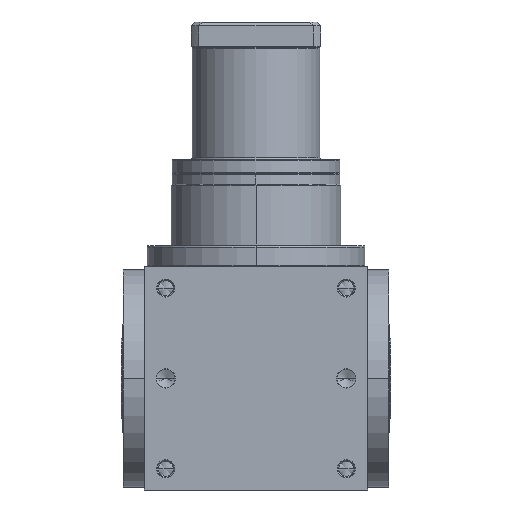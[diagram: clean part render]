
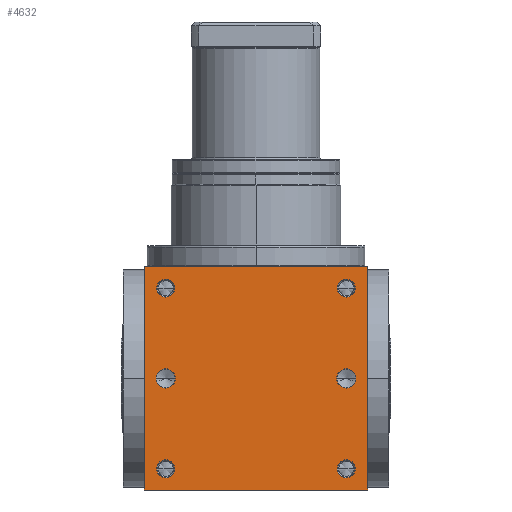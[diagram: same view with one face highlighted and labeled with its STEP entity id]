
A CAD part, front view. The second image highlights one B-rep face of the part: STEP entity #4632.
In plain terms, the highlighted planar face has unit normal (0, -1, 0).
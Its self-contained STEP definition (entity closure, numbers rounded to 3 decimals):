
#5=DIRECTION('',(1.,0.,0.));
#6=VECTOR('',#5,210.);
#7=CARTESIAN_POINT('',(-105.,-105.,-105.));
#8=LINE('',#7,#6);
#155=DIRECTION('',(0.,0.,1.));
#156=VECTOR('',#155,210.);
#157=CARTESIAN_POINT('',(105.,-105.,-105.));
#158=LINE('',#157,#156);
#209=DIRECTION('',(0.,0.,1.));
#210=VECTOR('',#209,210.);
#211=CARTESIAN_POINT('',(-105.,-105.,-105.));
#212=LINE('',#211,#210);
#213=CARTESIAN_POINT('',(85.,-105.,85.));
#214=DIRECTION('',(0.,1.,0.));
#215=DIRECTION('',(-1.,0.,0.));
#216=AXIS2_PLACEMENT_3D('',#213,#214,#215);
#218=CARTESIAN_POINT('',(85.,-105.,85.));
#219=DIRECTION('',(0.,1.,0.));
#220=DIRECTION('',(1.,0.,0.));
#221=AXIS2_PLACEMENT_3D('',#218,#219,#220);
#223=CARTESIAN_POINT('',(-85.,-105.,85.));
#224=DIRECTION('',(0.,1.,0.));
#225=DIRECTION('',(-1.,0.,0.));
#226=AXIS2_PLACEMENT_3D('',#223,#224,#225);
#228=CARTESIAN_POINT('',(-85.,-105.,85.));
#229=DIRECTION('',(0.,1.,0.));
#230=DIRECTION('',(1.,0.,0.));
#231=AXIS2_PLACEMENT_3D('',#228,#229,#230);
#233=CARTESIAN_POINT('',(85.,-105.,-85.));
#234=DIRECTION('',(0.,1.,0.));
#235=DIRECTION('',(-1.,0.,0.));
#236=AXIS2_PLACEMENT_3D('',#233,#234,#235);
#238=CARTESIAN_POINT('',(85.,-105.,-85.));
#239=DIRECTION('',(0.,1.,0.));
#240=DIRECTION('',(1.,0.,0.));
#241=AXIS2_PLACEMENT_3D('',#238,#239,#240);
#243=CARTESIAN_POINT('',(-85.,-105.,-85.));
#244=DIRECTION('',(0.,1.,0.));
#245=DIRECTION('',(-1.,0.,0.));
#246=AXIS2_PLACEMENT_3D('',#243,#244,#245);
#248=CARTESIAN_POINT('',(-85.,-105.,-85.));
#249=DIRECTION('',(0.,1.,0.));
#250=DIRECTION('',(1.,0.,0.));
#251=AXIS2_PLACEMENT_3D('',#248,#249,#250);
#253=CARTESIAN_POINT('',(-85.,-105.,0.));
#254=DIRECTION('',(0.,1.,0.));
#255=DIRECTION('',(1.,0.,0.));
#256=AXIS2_PLACEMENT_3D('',#253,#254,#255);
#258=CARTESIAN_POINT('',(-85.,-105.,0.));
#259=DIRECTION('',(0.,1.,0.));
#260=DIRECTION('',(-1.,0.,0.));
#261=AXIS2_PLACEMENT_3D('',#258,#259,#260);
#263=CARTESIAN_POINT('',(85.,-105.,0.));
#264=DIRECTION('',(0.,1.,0.));
#265=DIRECTION('',(1.,0.,0.));
#266=AXIS2_PLACEMENT_3D('',#263,#264,#265);
#268=CARTESIAN_POINT('',(85.,-105.,0.));
#269=DIRECTION('',(0.,1.,0.));
#270=DIRECTION('',(-1.,0.,0.));
#271=AXIS2_PLACEMENT_3D('',#268,#269,#270);
#285=DIRECTION('',(1.,0.,0.));
#286=VECTOR('',#285,210.);
#287=CARTESIAN_POINT('',(-105.,-105.,105.));
#288=LINE('',#287,#286);
#3730=CARTESIAN_POINT('',(-105.,-105.,-105.));
#3732=VERTEX_POINT('',#3730);
#3733=CARTESIAN_POINT('',(105.,-105.,-105.));
#3734=VERTEX_POINT('',#3733);
#3738=CARTESIAN_POINT('',(-105.,-105.,105.));
#3740=VERTEX_POINT('',#3738);
#3741=CARTESIAN_POINT('',(105.,-105.,105.));
#3742=VERTEX_POINT('',#3741);
#3897=CARTESIAN_POINT('',(76.6,-105.,85.));
#3898=CARTESIAN_POINT('',(93.4,-105.,85.));
#3899=VERTEX_POINT('',#3897);
#3900=VERTEX_POINT('',#3898);
#3905=CARTESIAN_POINT('',(-93.4,-105.,85.));
#3906=CARTESIAN_POINT('',(-76.6,-105.,85.));
#3907=VERTEX_POINT('',#3905);
#3908=VERTEX_POINT('',#3906);
#3913=CARTESIAN_POINT('',(76.6,-105.,-85.));
#3914=CARTESIAN_POINT('',(93.4,-105.,-85.));
#3915=VERTEX_POINT('',#3913);
#3916=VERTEX_POINT('',#3914);
#3921=CARTESIAN_POINT('',(-93.4,-105.,-85.));
#3922=CARTESIAN_POINT('',(-76.6,-105.,-85.));
#3923=VERTEX_POINT('',#3921);
#3924=VERTEX_POINT('',#3922);
#4245=CARTESIAN_POINT('',(-75.95,-105.,0.));
#4246=CARTESIAN_POINT('',(-94.05,-105.,
0.));
#4247=VERTEX_POINT('',#4245);
#4248=VERTEX_POINT('',#4246);
#4253=CARTESIAN_POINT('',(94.05,-105.,0.));
#4254=CARTESIAN_POINT('',(75.95,-105.,0.));
#4255=VERTEX_POINT('',#4253);
#4256=VERTEX_POINT('',#4254);
#4584=CARTESIAN_POINT('',(-105.,-105.,-105.));
#4585=DIRECTION('',(0.,-1.,0.));
#4586=DIRECTION('',(1.,0.,0.));
#4587=AXIS2_PLACEMENT_3D('',#4584,#4585,#4586);
#4588=PLANE('',#4587);
#4589=ORIENTED_EDGE('',*,*,#4424,.F.);
#4590=ORIENTED_EDGE('',*,*,#4467,.T.);
#4592=ORIENTED_EDGE('',*,*,#4591,.T.);
#4593=ORIENTED_EDGE('',*,*,#4546,.F.);
#4594=EDGE_LOOP('',(#4589,#4590,#4592,#4593));
#4595=FACE_OUTER_BOUND('',#4594,.F.);
#4597=ORIENTED_EDGE('',*,*,#4596,.F.);
#4599=ORIENTED_EDGE('',*,*,#4598,.F.);
#4600=EDGE_LOOP('',(#4597,#4599));
#4601=FACE_BOUND('',#4600,.F.);
#4603=ORIENTED_EDGE('',*,*,#4602,.F.);
#4605=ORIENTED_EDGE('',*,*,#4604,.F.);
#4606=EDGE_LOOP('',(#4603,#4605));
#4607=FACE_BOUND('',#4606,.F.);
#4609=ORIENTED_EDGE('',*,*,#4608,.F.);
#4611=ORIENTED_EDGE('',*,*,#4610,.F.);
#4612=EDGE_LOOP('',(#4609,#4611));
#4613=FACE_BOUND('',#4612,.F.);
#4615=ORIENTED_EDGE('',*,*,#4614,.F.);
#4617=ORIENTED_EDGE('',*,*,#4616,.F.);
#4618=EDGE_LOOP('',(#4615,#4617));
#4619=FACE_BOUND('',#4618,.F.);
#4621=ORIENTED_EDGE('',*,*,#4620,.F.);
#4623=ORIENTED_EDGE('',*,*,#4622,.F.);
#4624=EDGE_LOOP('',(#4621,#4623));
#4625=FACE_BOUND('',#4624,.F.);
#4627=ORIENTED_EDGE('',*,*,#4626,.F.);
#4629=ORIENTED_EDGE('',*,*,#4628,.F.);
#4630=EDGE_LOOP('',(#4627,#4629));
#4631=FACE_BOUND('',#4630,.F.);
#4632=ADVANCED_FACE('',(#4595,#4601,#4607,#4613,#4619,#4625,#4631),#4588,.T.);
#217=CIRCLE('',#216,8.4);
#222=CIRCLE('',#221,8.4);
#227=CIRCLE('',#226,8.4);
#232=CIRCLE('',#231,8.4);
#237=CIRCLE('',#236,8.4);
#242=CIRCLE('',#241,8.4);
#247=CIRCLE('',#246,8.4);
#252=CIRCLE('',#251,8.4);
#257=CIRCLE('',#256,9.05);
#262=CIRCLE('',#261,9.05);
#267=CIRCLE('',#266,9.05);
#272=CIRCLE('',#271,9.05);
#4424=EDGE_CURVE('',#3732,#3734,#8,.T.);
#4467=EDGE_CURVE('',#3732,#3740,#212,.T.);
#4546=EDGE_CURVE('',#3734,#3742,#158,.T.);
#4591=EDGE_CURVE('',#3740,#3742,#288,.T.);
#4596=EDGE_CURVE('',#3899,#3900,#217,.T.);
#4598=EDGE_CURVE('',#3900,#3899,#222,.T.);
#4602=EDGE_CURVE('',#3907,#3908,#227,.T.);
#4604=EDGE_CURVE('',#3908,#3907,#232,.T.);
#4608=EDGE_CURVE('',#3915,#3916,#237,.T.);
#4610=EDGE_CURVE('',#3916,#3915,#242,.T.);
#4614=EDGE_CURVE('',#3923,#3924,#247,.T.);
#4616=EDGE_CURVE('',#3924,#3923,#252,.T.);
#4620=EDGE_CURVE('',#4247,#4248,#257,.T.);
#4622=EDGE_CURVE('',#4248,#4247,#262,.T.);
#4626=EDGE_CURVE('',#4255,#4256,#267,.T.);
#4628=EDGE_CURVE('',#4256,#4255,#272,.T.);
